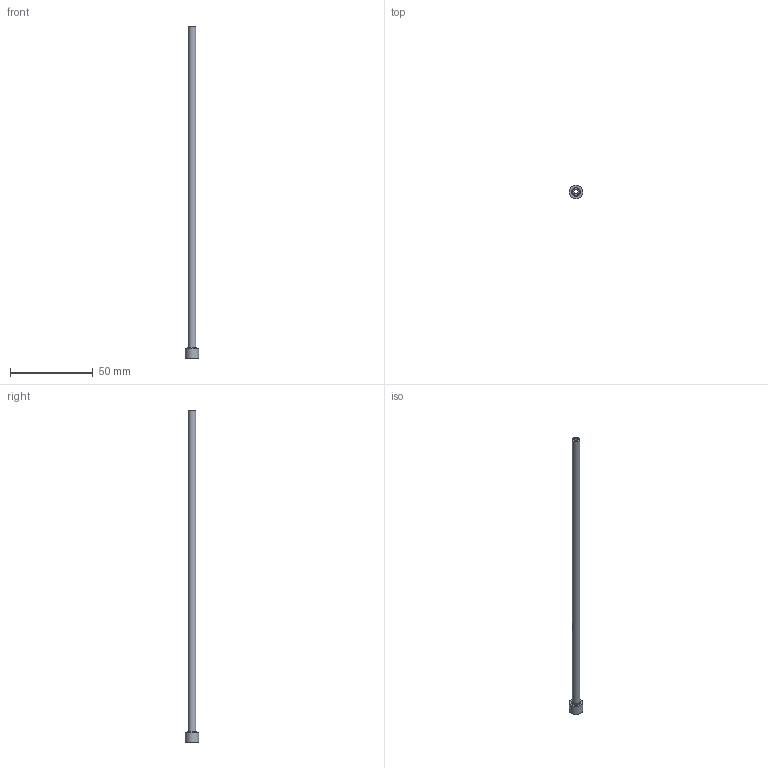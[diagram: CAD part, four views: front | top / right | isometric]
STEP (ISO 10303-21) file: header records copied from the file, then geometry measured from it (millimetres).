
FILE_DESCRIPTION (( 'STEP AP203' ), '1' );
FILE_NAME ('JES-25-45-200.STEP', '2017-06-24T01:56:58', ( '' ), ( '' ), 'SwSTEP 2.0', 'SolidWorks 2017', '' );
FILE_SCHEMA (( 'CONFIG_CONTROL_DESIGN' ));
Length unit declared in the file: millimetre
Products named in the file (1): JES-25-45-200
Bounding box: 8 x 8 x 200 mm (x, y, z)
Volume: 2135.3 mm3; surface area: 4744 mm2
Topology: 1 solids, 1 shells, 10 faces, 17 edges, 10 vertices
Faces by surface type: cylinder 4, plane 3, cone 2, torus 1
Full cylindrical faces by diameter (mm): 2.5 x1, 3 x1, 4.5 x1, 8 x1
Entity records: 285 total; most frequent: DIRECTION 42, CARTESIAN_POINT 31, AXIS2_PLACEMENT_3D 21, EDGE_LOOP 20, ORIENTED_EDGE 20, FACE_OUTER_BOUND 15, ADVANCED_FACE 10, CIRCLE 10
